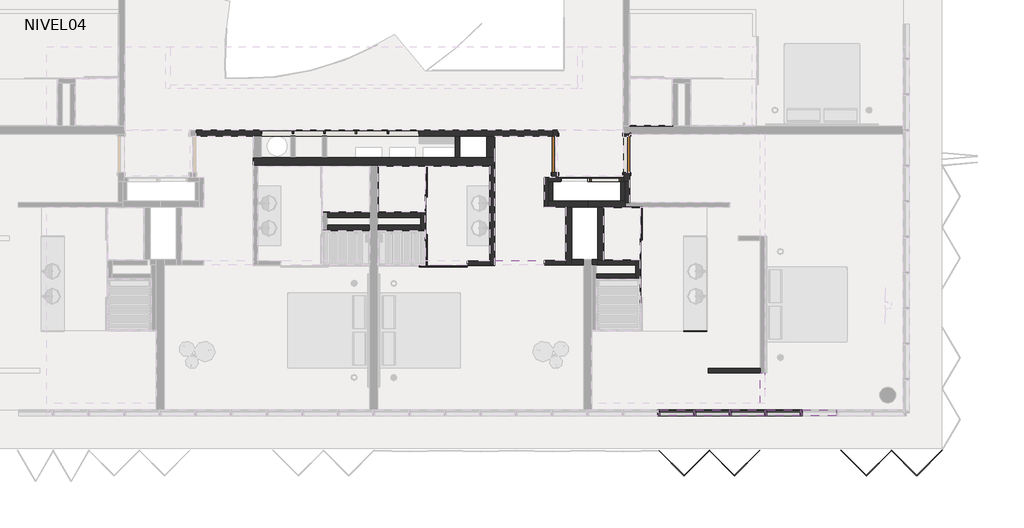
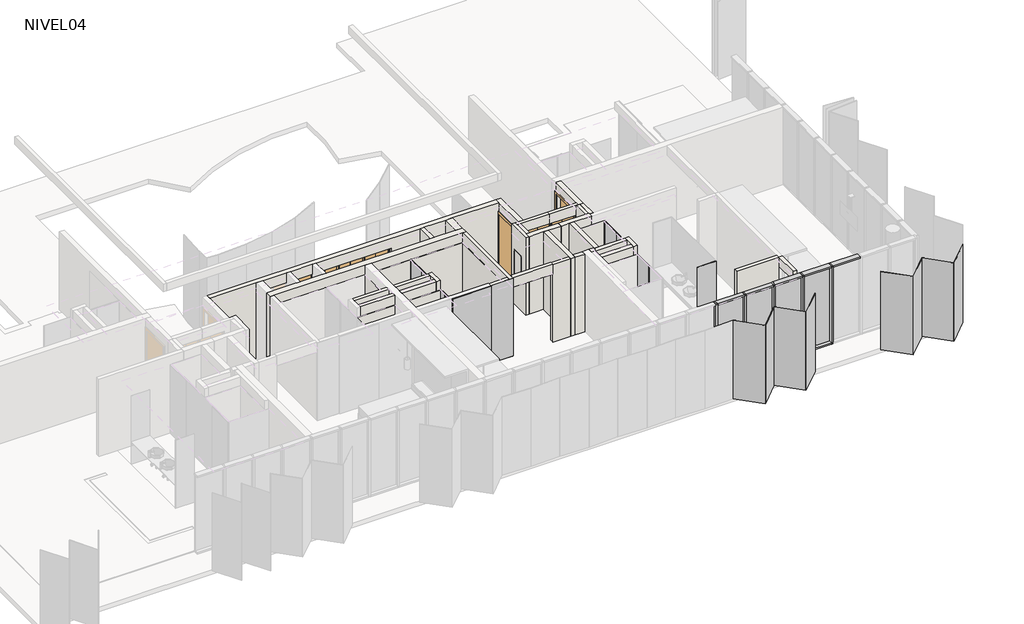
# One storey, part 3 of 8: 45 walls, 14 members, 13 plates, 8 doors.
"""IFC4 building model written with IfcOpenShell, lengths in millimetres."""

from ifc_helpers import new_model, si_unit, frame, origin, place, context, project, spatial, polyline, outline, extrude, faceted_brep, transform, mapped, element, save
from components import m_single_flush_910x_224_a4f79d59, m_single_flush_910x_224_d199ccfa, puerta_closet_shaft_75_x_232cm_9b8c6cb1, puerta_closet_shaft_75_x_232cm_f7ce9964, puerta_closet_shaft_80_x_232cm_003f94e8, rectangular_mullion_50_x_150mm_324a6438, rectangular_mullion_50_x_150mm_33c2bde1, folding_hd_folding_hd_45_0b72d655, panel_corredera_cr_panel_corredera_e3ae9a5b, panel_corredera_cr_panel_corredera_0bc1c699, panel_corredera_cr_panel_corredera_7198288a, panel_corredera_cr_panel_corredera_8db39db7, system_panel_cr_shower_d400fda2, system_panel_cr_shower_4114597a, system_panel_cr_shower_ad642826, system_panel_cr_shower_33531463, system_panel_glazed_6ccc6dc1

model = new_model("IFC4")

# Units and contexts
model_context = context("Model", 3, world=origin())
ifc_project = project(units=[si_unit("LENGTHUNIT", "METRE", prefix="MILLI")], contexts=[model_context])

# Site, building, storey
site = spatial("IfcSite", under=ifc_project)
building = spatial("IfcBuilding", under=site)
storey = spatial("IfcBuildingStorey", under=building, Name="NIVEL04", Elevation=7940.0)

# Doors
placement = place(None, origin())
m_single_flush_910x_224_shape = m_single_flush_910x_224_a4f79d59(model_context)
element("IfcDoor", 1, ObjectType="M_Single-Flush : 910x 224", at=placement, inside=storey, context=model_context, shape_type="MappedRepresentation", body=[
    mapped(m_single_flush_910x_224_shape, transform((-2608.5934748, -883.5860759, 7940.0), x_axis=(0.0, 1.0, 0.0), y_axis=(-1.0, 0.0, 0.0), z_axis=(0.0, 0.0, 1.0))),
])
m_single_flush_910x_224_2_shape = m_single_flush_910x_224_d199ccfa(model_context)
element("IfcDoor", 2, ObjectType="M_Single-Flush : 910x 224", at=placement, inside=storey, context=model_context, shape_type="MappedRepresentation", body=[
    mapped(m_single_flush_910x_224_2_shape, transform((-798.5934748, -883.5860759, 7940.0), x_axis=(0.0, 1.0, 0.0), y_axis=(-1.0, 0.0, 0.0), z_axis=(0.0, 0.0, 1.0))),
])
puerta_closet_shaft_75_x_232cm_shape = puerta_closet_shaft_75_x_232cm_9b8c6cb1(model_context)
element("IfcDoor", 3, ObjectType="PUERTA CLOSET SHAFT : 75 x 232cm", at=placement, inside=storey, context=model_context, shape_type="MappedRepresentation", body=[
    mapped(puerta_closet_shaft_75_x_232cm_shape, transform((-947.061904, -1521.0860759, 7940.0), x_axis=(1.0, 0.0, 0.0), y_axis=(0.0, 1.0, 0.0), z_axis=(0.0, 0.0, 1.0))),
])
puerta_closet_shaft_75_x_232cm_2_shape = puerta_closet_shaft_75_x_232cm_f7ce9964(model_context)
element("IfcDoor", 4, ObjectType="PUERTA CLOSET SHAFT : 75 x 232cm", at=placement, inside=storey, context=model_context, shape_type="MappedRepresentation", body=[
    mapped(puerta_closet_shaft_75_x_232cm_2_shape, transform((-2480.1250457, -1521.0860759, 7940.0), x_axis=(-1.0, 0.0, 0.0), y_axis=(0.0, -1.0, 0.0), z_axis=(0.0, 0.0, 1.0))),
])
puerta_closet_shaft_80_x_232cm_shape = puerta_closet_shaft_80_x_232cm_003f94e8(model_context)
element("IfcDoor", 5, ObjectType="PUERTA CLOSET SHAFT : 80 x 232cm", at=placement, inside=storey, context=model_context, shape_type="MappedRepresentation", body=[
    mapped(puerta_closet_shaft_80_x_232cm_shape, transform((-6892.061904, -341.0860759, 7940.0), x_axis=(1.0, 0.0, 0.0), y_axis=(0.0, 1.0, 0.0), z_axis=(0.0, 0.0, 1.0))),
])
element("IfcDoor", 6, ObjectType="PUERTA CLOSET SHAFT : 80 x 232cm", at=placement, inside=storey, context=model_context, shape_type="MappedRepresentation", body=[
    mapped(puerta_closet_shaft_80_x_232cm_shape, transform((-7692.061904, -341.0860759, 7940.0), x_axis=(1.0, 0.0, 0.0), y_axis=(0.0, 1.0, 0.0), z_axis=(0.0, 0.0, 1.0))),
])
element("IfcDoor", 7, ObjectType="PUERTA CLOSET SHAFT : 80 x 232cm", at=placement, inside=storey, context=model_context, shape_type="MappedRepresentation", body=[
    mapped(puerta_closet_shaft_80_x_232cm_shape, transform((-6092.061904, -341.0860759, 7940.0), x_axis=(1.0, 0.0, 0.0), y_axis=(0.0, 1.0, 0.0), z_axis=(0.0, 0.0, 1.0))),
])
element("IfcDoor", 8, ObjectType="PUERTA CLOSET SHAFT : 80 x 232cm", at=placement, inside=storey, context=model_context, shape_type="MappedRepresentation", body=[
    mapped(puerta_closet_shaft_80_x_232cm_shape, transform((-5292.061904, -341.0860759, 7940.0), x_axis=(1.0, 0.0, 0.0), y_axis=(0.0, 1.0, 0.0), z_axis=(0.0, 0.0, 1.0))),
])

# Members
rectangular_mullion_50_x_150mm_shape = rectangular_mullion_50_x_150mm_324a6438(model_context)
element("IfcMember", 9, ObjectType="Rectangular Mullion : 50 x 150mm", at=placement, inside=storey, context=model_context, shape_type="MappedRepresentation", body=[
    mapped(rectangular_mullion_50_x_150mm_shape, transform((1841.4065252, -7416.0860759, 10490.0), x_axis=(0.0, 0.0, 1.0), y_axis=(0.0, 1.0, 0.0), z_axis=(-1.0, 0.0, 0.0))),
])
element("IfcMember", 10, ObjectType="Rectangular Mullion : 50 x 150mm", at=placement, inside=storey, context=model_context, shape_type="MappedRepresentation", body=[
    mapped(rectangular_mullion_50_x_150mm_shape, transform((941.4065252, -7416.0860759, 10490.0), x_axis=(0.0, 0.0, 1.0), y_axis=(0.0, 1.0, 0.0), z_axis=(-1.0, 0.0, 0.0))),
])
element("IfcMember", 11, ObjectType="Rectangular Mullion : 50 x 150mm", at=placement, inside=storey, context=model_context, shape_type="MappedRepresentation", body=[
    mapped(rectangular_mullion_50_x_150mm_shape, transform((41.4065252, -7416.0860759, 10490.0), x_axis=(0.0, 0.0, 1.0), y_axis=(0.0, 1.0, 0.0), z_axis=(-1.0, 0.0, 0.0))),
])
element("IfcMember", 12, ObjectType="Rectangular Mullion : 50 x 150mm", at=placement, inside=storey, context=model_context, shape_type="MappedRepresentation", body=[
    mapped(rectangular_mullion_50_x_150mm_shape, transform((3641.4065252, -7416.0860759, 10490.0), x_axis=(0.0, 0.0, 1.0), y_axis=(0.0, 1.0, 0.0), z_axis=(-1.0, 0.0, 0.0))),
])
element("IfcMember", 13, ObjectType="Rectangular Mullion : 50 x 150mm", at=placement, inside=storey, context=model_context, shape_type="MappedRepresentation", body=[
    mapped(rectangular_mullion_50_x_150mm_shape, transform((2741.4065252, -7416.0860759, 10490.0), x_axis=(0.0, 0.0, 1.0), y_axis=(0.0, 1.0, 0.0), z_axis=(-1.0, 0.0, 0.0))),
])
element("IfcMember", 14, ObjectType="Rectangular Mullion : 50 x 150mm", at=placement, inside=storey, context=model_context, shape_type="MappedRepresentation", body=[
    mapped(rectangular_mullion_50_x_150mm_shape, transform((1791.4065252, -7416.0860759, 7920.0), x_axis=(0.0, 0.0, -1.0), y_axis=(0.0, 1.0, 0.0), z_axis=(1.0, 0.0, 0.0))),
])
element("IfcMember", 15, ObjectType="Rectangular Mullion : 50 x 150mm", at=placement, inside=storey, context=model_context, shape_type="MappedRepresentation", body=[
    mapped(rectangular_mullion_50_x_150mm_shape, transform((891.4065252, -7416.0860759, 7920.0), x_axis=(0.0, 0.0, -1.0), y_axis=(0.0, 1.0, 0.0), z_axis=(1.0, 0.0, 0.0))),
])
element("IfcMember", 16, ObjectType="Rectangular Mullion : 50 x 150mm", at=placement, inside=storey, context=model_context, shape_type="MappedRepresentation", body=[
    mapped(rectangular_mullion_50_x_150mm_shape, transform((3591.4065252, -7416.0860759, 7920.0), x_axis=(0.0, 0.0, -1.0), y_axis=(0.0, 1.0, 0.0), z_axis=(1.0, 0.0, 0.0))),
])
element("IfcMember", 17, ObjectType="Rectangular Mullion : 50 x 150mm", at=placement, inside=storey, context=model_context, shape_type="MappedRepresentation", body=[
    mapped(rectangular_mullion_50_x_150mm_shape, transform((2691.4065252, -7416.0860759, 7920.0), x_axis=(0.0, 0.0, -1.0), y_axis=(0.0, 1.0, 0.0), z_axis=(1.0, 0.0, 0.0))),
])
rectangular_mullion_50_x_150mm_2_shape = rectangular_mullion_50_x_150mm_33c2bde1(model_context)
element("IfcMember", 18, ObjectType="Rectangular Mullion : 50 x 150mm", at=placement, inside=storey, context=model_context, shape_type="MappedRepresentation", body=[
    mapped(rectangular_mullion_50_x_150mm_2_shape, transform((1816.4065252, -7416.0860759, 7920.0), x_axis=(-1.0, 0.0, 0.0), y_axis=(0.0, 1.0, 0.0), z_axis=(0.0, 0.0, -1.0))),
])
element("IfcMember", 19, ObjectType="Rectangular Mullion : 50 x 150mm", at=placement, inside=storey, context=model_context, shape_type="MappedRepresentation", body=[
    mapped(rectangular_mullion_50_x_150mm_2_shape, transform((916.4065252, -7416.0860759, 7920.0), x_axis=(-1.0, 0.0, 0.0), y_axis=(0.0, 1.0, 0.0), z_axis=(0.0, 0.0, -1.0))),
])
element("IfcMember", 20, ObjectType="Rectangular Mullion : 50 x 150mm", at=placement, inside=storey, context=model_context, shape_type="MappedRepresentation", body=[
    mapped(rectangular_mullion_50_x_150mm_2_shape, transform((16.4065252, -7416.0860759, 7920.0), x_axis=(-1.0, 0.0, 0.0), y_axis=(0.0, 1.0, 0.0), z_axis=(0.0, 0.0, -1.0))),
])
element("IfcMember", 21, ObjectType="Rectangular Mullion : 50 x 150mm", at=placement, inside=storey, context=model_context, shape_type="MappedRepresentation", body=[
    mapped(rectangular_mullion_50_x_150mm_2_shape, transform((2716.4065252, -7416.0860759, 7920.0), x_axis=(-1.0, 0.0, 0.0), y_axis=(0.0, 1.0, 0.0), z_axis=(0.0, 0.0, -1.0))),
])
element("IfcMember", 22, ObjectType="Rectangular Mullion : 50 x 150mm", at=placement, inside=storey, context=model_context, shape_type="MappedRepresentation", body=[
    mapped(rectangular_mullion_50_x_150mm_2_shape, transform((3616.4065252, -7416.0860759, 7920.0), x_axis=(-1.0, 0.0, 0.0), y_axis=(0.0, 1.0, 0.0), z_axis=(0.0, 0.0, -1.0))),
])

# Plates
folding_hd_folding_hd_45_shape = folding_hd_folding_hd_45_0b72d655(model_context)
element("IfcPlate", 23, ObjectType="FOLDING HD : FOLDING HD 45", at=placement, inside=storey, context=model_context, shape_type="MappedRepresentation", body=[
    mapped(folding_hd_folding_hd_45_shape, transform((3591.4065252, -8366.0860759, 7920.0), x_axis=(-1.0, 0.0, 0.0), y_axis=(0.0, -1.0, 0.0), z_axis=(0.0, 0.0, 1.0))),
])
panel_corredera_cr_panel_corredera_shape = panel_corredera_cr_panel_corredera_e3ae9a5b(model_context)
element("IfcPlate", 24, ObjectType="PANEL CORREDERA : CR_PANEL CORREDERA", at=placement, inside=storey, context=model_context, shape_type="MappedRepresentation", body=[
    mapped(panel_corredera_cr_panel_corredera_shape, transform((-453.5434748, -2560.8259695, 7940.0), x_axis=(0.0, -1.0, 0.0), y_axis=(1.0, 0.0, 0.0), z_axis=(0.0, 0.0, 1.0))),
])
panel_corredera_cr_panel_corredera_2_shape = panel_corredera_cr_panel_corredera_0bc1c699(model_context)
element("IfcPlate", 25, ObjectType="PANEL CORREDERA : CR_PANEL CORREDERA", at=placement, inside=storey, context=model_context, shape_type="MappedRepresentation", body=[
    mapped(panel_corredera_cr_panel_corredera_2_shape, transform((-5883.5921504, -3371.0862189, 7940.0), x_axis=(0.0, 1.0, 0.0), y_axis=(-1.0, 0.0, 0.0), z_axis=(0.0, 0.0, 1.0))),
])
panel_corredera_cr_panel_corredera_3_shape = panel_corredera_cr_panel_corredera_7198288a(model_context)
element("IfcPlate", 26, ObjectType="PANEL CORREDERA : CR_PANEL CORREDERA", at=placement, inside=storey, context=model_context, shape_type="MappedRepresentation", body=[
    mapped(panel_corredera_cr_panel_corredera_3_shape, transform((-5883.5921504, -1491.0860759, 7940.0), x_axis=(0.0, -1.0, 0.0), y_axis=(1.0, 0.0, 0.0), z_axis=(0.0, 0.0, 1.0))),
])
panel_corredera_cr_panel_corredera_4_shape = panel_corredera_cr_panel_corredera_8db39db7(model_context)
element("IfcPlate", 27, ObjectType="PANEL CORREDERA : CR_PANEL CORREDERA", at=placement, inside=storey, context=model_context, shape_type="MappedRepresentation", body=[
    mapped(panel_corredera_cr_panel_corredera_4_shape, transform((-5353.5934748, -3686.0862189, 7940.0), x_axis=(-1.0, 0.0, 0.0), y_axis=(0.0, -1.0, 0.0), z_axis=(0.0, 0.0, 1.0))),
])
system_panel_cr_shower_shape = system_panel_cr_shower_d400fda2(model_context)
element("IfcPlate", 28, ObjectType="System Panel : CR-SHOWER", at=placement, inside=storey, context=model_context, shape_type="MappedRepresentation", body=[
    mapped(system_panel_cr_shower_shape, transform((-4478.5934748, -3686.0862189, 7940.0), x_axis=(1.0, 0.0, 0.0), y_axis=(0.0, 1.0, 0.0), z_axis=(0.0, 0.0, 1.0))),
])
system_panel_cr_shower_2_shape = system_panel_cr_shower_4114597a(model_context)
element("IfcPlate", 29, ObjectType="System Panel : CR-SHOWER", at=placement, inside=storey, context=model_context, shape_type="MappedRepresentation", body=[
    mapped(system_panel_cr_shower_2_shape, transform((936.4065252, -5348.5862189, 7940.0), x_axis=(1.0, 0.0, 0.0), y_axis=(0.0, 1.0, 0.0), z_axis=(0.0, 0.0, 1.0))),
])
system_panel_cr_shower_3_shape = system_panel_cr_shower_ad642826(model_context)
element("IfcPlate", 30, ObjectType="System Panel : CR-SHOWER", at=placement, inside=storey, context=model_context, shape_type="MappedRepresentation", body=[
    mapped(system_panel_cr_shower_3_shape, transform((-453.5434748, -3776.2845441, 7940.0), x_axis=(0.0, 1.0, 0.0), y_axis=(-1.0, 0.0, 0.0), z_axis=(0.0, 0.0, 1.0))),
])
system_panel_cr_shower_4_shape = system_panel_cr_shower_33531463(model_context)
element("IfcPlate", 31, ObjectType="System Panel : CR-SHOWER", at=placement, inside=storey, context=model_context, shape_type="MappedRepresentation", body=[
    mapped(system_panel_cr_shower_4_shape, transform((-5883.5921504, -2436.0861474, 7940.0), x_axis=(0.0, 1.0, 0.0), y_axis=(-1.0, 0.0, 0.0), z_axis=(0.0, 0.0, 1.0))),
])
system_panel_glazed_shape = system_panel_glazed_6ccc6dc1(model_context)
element("IfcPlate", 32, ObjectType="System Panel : Glazed", at=placement, inside=storey, context=model_context, shape_type="MappedRepresentation", body=[
    mapped(system_panel_glazed_shape, transform((1366.4065252, -7416.0860759, 7970.0), x_axis=(-1.0, 0.0, 0.0), y_axis=(0.0, -1.0, 0.0), z_axis=(0.0, 0.0, 1.0))),
])
element("IfcPlate", 33, ObjectType="System Panel : Glazed", at=placement, inside=storey, context=model_context, shape_type="MappedRepresentation", body=[
    mapped(system_panel_glazed_shape, transform((466.4065252, -7416.0860759, 7970.0), x_axis=(-1.0, 0.0, 0.0), y_axis=(0.0, -1.0, 0.0), z_axis=(0.0, 0.0, 1.0))),
])
element("IfcPlate", 34, ObjectType="System Panel : Glazed", at=placement, inside=storey, context=model_context, shape_type="MappedRepresentation", body=[
    mapped(system_panel_glazed_shape, transform((2266.4065252, -7416.0860759, 7970.0), x_axis=(-1.0, 0.0, 0.0), y_axis=(0.0, -1.0, 0.0), z_axis=(0.0, 0.0, 1.0))),
])
element("IfcPlate", 35, ObjectType="System Panel : Glazed", at=placement, inside=storey, context=model_context, shape_type="MappedRepresentation", body=[
    mapped(system_panel_glazed_shape, transform((3166.4065252, -7416.0860759, 7970.0), x_axis=(-1.0, 0.0, 0.0), y_axis=(0.0, -1.0, 0.0), z_axis=(0.0, 0.0, 1.0))),
])

# Walls
element("IfcWall", 36, ObjectType="SCV.TI.A.110.090.143.47.1", at=placement, inside=storey, context=model_context, shape_type="SweptSolid", body=[
    extrude(outline(polyline([(-2333.5934748, -3681.0862189), (-2883.5934748, -3681.0862189), (-2883.5934748, -3571.0862189), (-2333.5934748, -3571.0862189), (-2333.5934748, -3681.0862189)])), frame((0.0, 0.0, 7940.0), z_axis=(0.0, 0.0, 1.0), x_axis=(1.0, 0.0, 0.0)), (0.0, 0.0, 1.0), 2550.0),
])
element("IfcWall", 37, ObjectType="SCV.TI.A.110.090.143.47.1", at=placement, inside=storey, context=model_context, shape_type="Brep", body=[
    faceted_brep([(-1778.029983, -1576.0860759, 10490.0), (-2773.5934748, -1576.0860759, 10490.0), (-2773.5934748, -1576.0860759, 7940.0), (-2463.5934748, -1576.0860759, 7940.0), (-2463.5934748, -1576.0860759, 10180.0), (-1778.029983, -1576.0860759, 10180.0), (-2773.5934748, -1466.0860759, 10490.0), (-2683.5934748, -1466.0860759, 10490.0), (-2533.5934748, -1466.0860759, 10490.0), (-1778.029983, -1466.0860759, 10490.0), (-1778.029983, -1466.0860759, 10180.0), (-2463.5934748, -1466.0860759, 10180.0), (-2463.5934748, -1466.0860759, 7940.0), (-2533.5934748, -1466.0860759, 7940.0), (-2683.5934748, -1466.0860759, 7940.0), (-2773.5934748, -1466.0860759, 7940.0)], [[[0, 1, 2, 3, 4, 5]], [[6, 7, 8, 9, 10, 11, 12, 13, 14, 15]], [[2, 15, 14, 13, 12, 3]], [[9, 0, 5, 10]], [[1, 0, 9, 8, 7, 6]], [[4, 11, 10, 5]], [[11, 4, 3, 12]], [[2, 1, 6, 15]]]),
])
element("IfcWall", 38, ObjectType="SCV.TI.A.150.120.212.47.1", at=placement, inside=storey, context=model_context, shape_type="Brep", body=[
    faceted_brep([(-2683.5934748, -1466.0860759, 10490.0), (-2683.5934748, -416.0860759, 10490.0), (-2683.5934748, -266.0860759, 10490.0), (-2683.5934748, -266.0860759, 7940.0), (-2683.5934748, -426.0860759, 7940.0), (-2683.5934748, -426.0860759, 10140.0), (-2683.5934748, -1341.0860759, 10140.0), (-2683.5934748, -1341.0860759, 7940.0), (-2683.5934748, -1466.0860759, 7940.0), (-2533.5934748, -266.0860759, 10490.0), (-2533.5934748, -1466.0860759, 10490.0), (-2533.5934748, -1466.0860759, 7940.0), (-2533.5934748, -1341.0860759, 7940.0), (-2533.5934748, -1341.0860759, 10140.0), (-2533.5934748, -426.0860759, 10140.0), (-2533.5934748, -426.0860759, 7940.0), (-2533.5934748, -266.0860759, 7940.0)], [[[0, 1, 2, 3, 4, 5, 6, 7, 8]], [[9, 10, 11, 12, 13, 14, 15, 16]], [[3, 16, 15, 4]], [[11, 8, 7, 12]], [[2, 1, 0, 10, 9]], [[5, 14, 13, 6]], [[6, 13, 12, 7]], [[14, 5, 4, 15]], [[3, 2, 9, 16]], [[0, 8, 11, 10]]]),
])
element("IfcWall", 39, ObjectType="SCV.TI.A.110.090.143.47.1", at=placement, inside=storey, context=model_context, shape_type="Brep", body=[
    faceted_brep([(-4243.5934748, -1166.0860759, 7920.0), (-4243.5934748, -3686.0862189, 7920.0), (-4243.5934748, -3686.0862189, 7940.0), (-4243.5934748, -3686.0862189, 10490.0), (-4243.5934748, -3576.0862189, 10490.0), (-4243.5934748, -1166.0860759, 10490.0), (-4133.5934748, -1166.0860759, 7920.0), (-4133.5934748, -1166.0860759, 10490.0), (-4133.5934748, -3686.0862189, 10490.0), (-4133.5934748, -3686.0862189, 10190.0), (-4133.5934748, -3686.0862189, 7920.0)], [[[0, 1, 2, 3, 4, 5]], [[6, 7, 8, 9, 10]], [[1, 0, 6, 10]], [[5, 4, 3, 8, 7]], [[1, 10, 9, 8, 3, 2]], [[0, 5, 7, 6]]]),
])
element("IfcWall", 40, ObjectType="SCV.TI.A.150.120.212.47.1", at=placement, inside=storey, context=model_context, shape_type="Brep", body=[
    faceted_brep([(-11683.5934748, -416.0860759, 7920.0), (-10233.5934748, -416.0860759, 7920.0), (-10033.5934748, -416.0860759, 7920.0), (-9283.5934748, -416.0860759, 7920.0), (-9173.5934748, -416.0860759, 7920.0), (-8483.5934748, -416.0860759, 7920.0), (-8373.5934748, -416.0860759, 7920.0), (-5133.5934748, -416.0860759, 7920.0), (-5013.5934748, -416.0860759, 7920.0), (-4333.5934748, -416.0860759, 7920.0), (-4133.5934748, -416.0860759, 7920.0), (-2683.5934748, -416.0860759, 7920.0), (-2683.5934748, -416.0860759, 10490.0), (-4133.5934748, -416.0860759, 10490.0), (-4333.5934748, -416.0860759, 10490.0), (-5013.5934748, -416.0860759, 10490.0), (-5133.5934748, -416.0860759, 10490.0), (-8373.5934748, -416.0860759, 10490.0), (-8483.5934748, -416.0860759, 10490.0), (-9173.5934748, -416.0860759, 10490.0), (-9283.5934748, -416.0860759, 10490.0), (-10033.5934748, -416.0860759, 10490.0), (-10233.5934748, -416.0860759, 10490.0), (-11683.5934748, -416.0860759, 10490.0), (-6033.5934748, -416.0860759, 7940.0), (-10033.5934748, -416.0860759, 7940.0), (-10033.5934748, -416.0860759, 10160.0), (-6033.5934748, -416.0860759, 10160.0), (-2683.5934748, -266.0860759, 7920.0), (-11683.5934748, -266.0860759, 7920.0), (-11683.5934748, -266.0860759, 7940.0), (-11683.5934748, -266.0860759, 10490.0), (-2683.5934748, -266.0860759, 10490.0), (-2683.5934748, -266.0860759, 7940.0), (-6033.5934748, -266.0860759, 10160.0), (-10033.5934748, -266.0860759, 10160.0), (-10033.5934748, -266.0860759, 7940.0), (-6033.5934748, -266.0860759, 7940.0)], [[[0, 1, 2, 3, 4, 5, 6, 7, 8, 9, 10, 11, 12, 13, 14, 15, 16, 17, 18, 19, 20, 21, 22, 23], [24, 25, 26, 27]], [[28, 29, 30, 31, 32, 33], [34, 35, 36, 37]], [[11, 10, 9, 8, 7, 6, 5, 4, 3, 2, 1, 0, 29, 28]], [[23, 22, 21, 20, 19, 18, 17, 16, 15, 14, 13, 12, 32, 31]], [[26, 35, 34, 27]], [[36, 25, 24, 37]], [[25, 36, 35, 26]], [[37, 24, 27, 34]], [[12, 11, 28, 33, 32]], [[0, 23, 31, 30, 29]]]),
])
element("IfcWall", 41, ObjectType="SCV.TI.A.150.120.212.47.1", at=placement, inside=storey, context=model_context, shape_type="Brep", body=[
    faceted_brep([(-2773.5934748, -2216.0860759, 7940.0), (-2333.5934748, -2216.0860759, 7940.0), (-2183.5934748, -2216.0860759, 7940.0), (-1783.5934748, -2216.0860759, 7940.0), (-1783.5934748, -2216.0860759, 10490.0), (-2183.5934748, -2216.0860759, 10490.0), (-2333.5934748, -2216.0860759, 10490.0), (-2773.5934748, -2216.0860759, 10490.0), (-2773.5934748, -2066.0860759, 7940.0), (-2773.5934748, -2066.0860759, 10490.0), (-1783.5934748, -2066.0860759, 10490.0), (-1783.5934748, -2066.0860759, 7940.0)], [[[0, 1, 2, 3, 4, 5, 6, 7]], [[8, 9, 10, 11]], [[3, 2, 1, 0, 8, 11]], [[4, 3, 11, 10]], [[7, 6, 5, 4, 10, 9]], [[0, 7, 9, 8]]]),
])
element("IfcWall", 42, ObjectType="SCV.TI.A.110.090.143.47.1", at=placement, inside=storey, context=model_context, shape_type="Brep", body=[
    faceted_brep([(-2883.5934748, -1466.0860759, 7920.0), (-2883.5934748, -2216.0860759, 7920.0), (-2883.5934748, -2216.0860759, 10490.0), (-2883.5934748, -1466.0860759, 10490.0), (-2773.5934748, -1466.0860759, 7920.0), (-2773.5934748, -1466.0860759, 7940.0), (-2773.5934748, -1466.0860759, 10490.0), (-2773.5934748, -1576.0860759, 10490.0), (-2773.5934748, -2066.0860759, 10490.0), (-2773.5934748, -2216.0860759, 10490.0), (-2773.5934748, -2216.0860759, 7940.0), (-2773.5934748, -2216.0860759, 7920.0)], [[[0, 1, 2, 3]], [[4, 5, 6, 7, 8, 9, 10, 11]], [[1, 0, 4, 11]], [[3, 2, 9, 8, 7, 6]], [[2, 1, 11, 10, 9]], [[0, 3, 6, 5, 4]]]),
])
element("IfcWall", 43, ObjectType="SCV.TI.A.120.120.122.46.2", at=placement, inside=storey, context=model_context, shape_type="SweptSolid", body=[
    extrude(outline(polyline([(-6003.6822103, -2796.0860759), (-7083.5934748, -2796.0860759), (-7083.5934748, -2676.0860759), (-6003.6822103, -2676.0860759), (-6003.6822103, -2796.0860759)])), frame((0.0, 0.0, 7940.0), z_axis=(0.0, 0.0, 1.0), x_axis=(1.0, 0.0, 0.0)), (0.0, 0.0, 1.0), 2550.0),
])
element("IfcWall", 44, ObjectType="SCV.TI.A.120.120.122.46.2", at=placement, inside=storey, context=model_context, shape_type="Brep", body=[
    faceted_brep([(-5883.6822103, -2796.0860759, 7940.0), (-5883.6822103, -2356.0860759, 7940.0), (-5883.6822103, -2356.0860759, 10490.0), (-5883.6822103, -2796.0860759, 10490.0), (-6003.6822103, -2796.0860759, 7940.0), (-6003.6822103, -2796.0860759, 10490.0), (-6003.6822103, -2676.0860759, 10490.0), (-6003.6822103, -2476.0860759, 10490.0), (-6003.6822103, -2356.0860759, 10490.0), (-6003.6822103, -2356.0860759, 7940.0), (-6003.6822103, -2476.0860759, 7940.0), (-6003.6822103, -2676.0860759, 7940.0)], [[[0, 1, 2, 3]], [[4, 5, 6, 7, 8, 9, 10, 11]], [[1, 0, 4, 11, 10, 9]], [[3, 2, 8, 7, 6, 5]], [[2, 1, 9, 8]], [[0, 3, 5, 4]]]),
])
element("IfcWall", 45, ObjectType="SCV.TI.A.120.120.122.46.2", at=placement, inside=storey, context=model_context, shape_type="SweptSolid", body=[
    extrude(outline(polyline([(-7083.5934748, -2356.0860759), (-6003.6822103, -2356.0860759), (-6003.6822103, -2476.0860759), (-7083.5934748, -2476.0860759), (-7083.5934748, -2356.0860759)])), frame((0.0, 0.0, 7940.0), z_axis=(0.0, 0.0, 1.0), x_axis=(1.0, 0.0, 0.0)), (0.0, 0.0, 1.0), 2550.0),
])
element("IfcWall", 46, ObjectType="SCV.TI.A.110.090.143.47.1", at=placement, inside=storey, context=model_context, shape_type="Brep", body=[
    faceted_brep([(-4823.5934748, -3686.0862189, 7940.0), (-4243.5934748, -3686.0862189, 7940.0), (-4243.5934748, -3686.0862189, 10490.0), (-4823.5934748, -3686.0862189, 10490.0), (-4823.5934748, -3686.0862189, 10190.0), (-4823.5934748, -3576.0862189, 7940.0), (-4823.5934748, -3576.0862189, 10490.0), (-4243.5934748, -3576.0862189, 10490.0), (-4243.5934748, -3576.0862189, 7940.0)], [[[0, 1, 2, 3, 4]], [[5, 6, 7, 8]], [[1, 0, 5, 8]], [[3, 2, 7, 6]], [[0, 4, 3, 6, 5]], [[1, 8, 7, 2]]]),
])
element("IfcWall", 47, ObjectType="REV-PORCELANATO_60*60", at=placement, inside=storey, context=model_context, shape_type="Brep", body=[
    faceted_brep([(-4823.5934748, -3596.0862189, 7940.0), (-4243.5934748, -3596.0862189, 7940.0), (-4243.5934748, -3596.0862189, 10180.0), (-4823.5934748, -3596.0862189, 10180.0), (-4823.5934748, -3586.0862189, 7940.0), (-4823.5934748, -3586.0862189, 10180.0), (-4253.5934748, -3586.0862189, 10180.0), (-4243.5934748, -3586.0862189, 10180.0), (-4243.5934748, -3586.0862189, 7940.0), (-4253.5934748, -3586.0862189, 7940.0)], [[[0, 1, 2, 3]], [[4, 5, 6, 7, 8, 9]], [[1, 0, 4, 9, 8]], [[3, 2, 7, 6, 5]], [[0, 3, 5, 4]], [[2, 1, 8, 7]]]),
])
element("IfcWall", 48, ObjectType="REV-PORCELANATO_60*60", at=placement, inside=storey, context=model_context, shape_type="Brep", body=[
    faceted_brep([(-4243.5934748, -3586.0862189, 7940.0), (-4243.5934748, -1166.0860759, 7940.0), (-4243.5934748, -1166.0860759, 10180.0), (-4243.5934748, -3586.0862189, 10180.0), (-4253.5934748, -3586.0862189, 7940.0), (-4253.5934748, -3586.0862189, 10180.0), (-4253.5934748, -1176.0860759, 10180.0), (-4253.5934748, -1166.0860759, 10180.0), (-4253.5934748, -1166.0860759, 7940.0), (-4253.5934748, -1176.0860759, 7940.0)], [[[0, 1, 2, 3]], [[4, 5, 6, 7, 8, 9]], [[1, 0, 4, 9, 8]], [[3, 2, 7, 6, 5]], [[2, 1, 8, 7]], [[0, 3, 5, 4]]]),
])
element("IfcWall", 49, ObjectType="REV-PORCELANATO_60*60", at=placement, inside=storey, context=model_context, shape_type="Brep", body=[
    faceted_brep([(-4253.5934748, -1166.0860759, 7940.0), (-7083.5934748, -1166.0860759, 7940.0), (-7083.5934748, -1166.0860759, 10180.0), (-4253.5934748, -1166.0860759, 10180.0), (-4253.5934748, -1176.0860759, 7940.0), (-4253.5934748, -1176.0860759, 10180.0), (-7073.5934748, -1176.0860759, 10180.0), (-7083.5934748, -1176.0860759, 10180.0), (-7083.5934748, -1176.0860759, 7940.0), (-7073.5934748, -1176.0860759, 7940.0)], [[[0, 1, 2, 3]], [[4, 5, 6, 7, 8, 9]], [[1, 0, 4, 9, 8]], [[3, 2, 7, 6, 5]], [[2, 1, 8, 7]], [[0, 3, 5, 4]]]),
])
element("IfcWall", 50, ObjectType="REV-PORCELANATO_60*60", at=placement, inside=storey, context=model_context, shape_type="Brep", body=[
    faceted_brep([(-7083.5934748, -1176.0860759, 7940.0), (-7083.5934748, -2356.0860759, 7940.0), (-7083.5934748, -2356.0860759, 10180.0), (-7083.5934748, -1176.0860759, 10180.0), (-7073.5934748, -1176.0860759, 7940.0), (-7073.5934748, -1176.0860759, 10180.0), (-7073.5934748, -2346.0860759, 10180.0), (-7073.5934748, -2356.0860759, 10180.0), (-7073.5934748, -2356.0860759, 7940.0), (-7073.5934748, -2346.0860759, 7940.0)], [[[0, 1, 2, 3]], [[4, 5, 6, 7, 8, 9]], [[1, 0, 4, 9, 8]], [[3, 2, 7, 6, 5]], [[2, 1, 8, 7]], [[0, 3, 5, 4]]]),
])
element("IfcWall", 51, ObjectType="REV-PORCELANATO_60*60", at=placement, inside=storey, context=model_context, shape_type="SweptSolid", body=[
    extrude(outline(polyline([(-5883.5921504, -2356.0860759), (-7073.5934748, -2356.0860759), (-7073.5934748, -2346.0860759), (-5883.5921504, -2346.0860759), (-5883.5921504, -2356.0860759)])), frame((0.0, 0.0, 7940.0), z_axis=(0.0, 0.0, 1.0), x_axis=(1.0, 0.0, 0.0)), (0.0, 0.0, 1.0), 2240.0),
])
element("IfcWall", 52, ObjectType="REV-PORCELANATO_60*60", at=placement, inside=storey, context=model_context, shape_type="Brep", body=[
    faceted_brep([(-5883.5921504, -2796.0860759, 7940.0), (-7083.5934748, -2796.0860759, 7940.0), (-7083.5934748, -2796.0860759, 10180.0), (-5883.5921504, -2796.0860759, 10180.0), (-5883.5921504, -2806.0860759, 7940.0), (-5883.5921504, -2806.0860759, 10180.0), (-7073.5934748, -2806.0860759, 10180.0), (-7083.5934748, -2806.0860759, 10180.0), (-7083.5934748, -2806.0860759, 7940.0), (-7073.5934748, -2806.0860759, 7940.0)], [[[0, 1, 2, 3]], [[4, 5, 6, 7, 8, 9]], [[1, 0, 4, 9, 8]], [[3, 2, 7, 6, 5]], [[0, 3, 5, 4]], [[2, 1, 8, 7]]]),
])
element("IfcWall", 53, ObjectType="SCV.TI.A.120.120.122.46.2", at=placement, inside=storey, context=model_context, shape_type="SweptSolid", body=[
    extrude(outline(polyline([(-8363.5047394, -2676.0860759), (-7283.5934748, -2676.0860759), (-7283.5934748, -2796.0860759), (-8363.5047394, -2796.0860759), (-8363.5047394, -2676.0860759)])), frame((0.0, 0.0, 7940.0), z_axis=(0.0, 0.0, 1.0), x_axis=(1.0, 0.0, 0.0)), (0.0, 0.0, 1.0), 2550.0),
])
element("IfcWall", 54, ObjectType="SCV.TI.A.120.120.122.46.2", at=placement, inside=storey, context=model_context, shape_type="SweptSolid", body=[
    extrude(outline(polyline([(-7283.5934748, -2476.0860759), (-8363.5047394, -2476.0860759), (-8363.5047394, -2356.0860759), (-7283.5934748, -2356.0860759), (-7283.5934748, -2476.0860759)])), frame((0.0, 0.0, 7940.0), z_axis=(0.0, 0.0, 1.0), x_axis=(1.0, 0.0, 0.0)), (0.0, 0.0, 1.0), 2550.0),
])
element("IfcWall", 55, ObjectType="REV-PORCELANATO_60*60", at=placement, inside=storey, context=model_context, shape_type="Brep", body=[
    faceted_brep([(-7293.5934748, -1176.0860759, 7940.0), (-7293.5934748, -2346.0860759, 7940.0), (-7293.5934748, -2356.0860759, 7940.0), (-7293.5934748, -2356.0860759, 10180.0), (-7293.5934748, -2346.0860759, 10180.0), (-7293.5934748, -1176.0860759, 10180.0), (-7283.5934748, -1176.0860759, 7940.0), (-7283.5934748, -1176.0860759, 10180.0), (-7283.5934748, -2356.0860759, 10180.0), (-7283.5934748, -2356.0860759, 7940.0)], [[[0, 1, 2, 3, 4, 5]], [[6, 7, 8, 9]], [[2, 1, 0, 6, 9]], [[5, 4, 3, 8, 7]], [[3, 2, 9, 8]], [[0, 5, 7, 6]]]),
])
element("IfcWall", 56, ObjectType="REV-PORCELANATO_60*60", at=placement, inside=storey, context=model_context, shape_type="SweptSolid", body=[
    extrude(outline(polyline([(-8483.5947993, -2346.0860759), (-7293.5934748, -2346.0860759), (-7293.5934748, -2356.0860759), (-8483.5947993, -2356.0860759), (-8483.5947993, -2346.0860759)])), frame((0.0, 0.0, 7940.0), z_axis=(0.0, 0.0, 1.0), x_axis=(1.0, 0.0, 0.0)), (0.0, 0.0, 1.0), 2240.0),
])
element("IfcWall", 57, ObjectType="REV-PORCELANATO_60*60", at=placement, inside=storey, context=model_context, shape_type="Brep", body=[
    faceted_brep([(-8483.5947993, -2806.0860759, 7940.0), (-7293.5934748, -2806.0860759, 7940.0), (-7283.5934748, -2806.0860759, 7940.0), (-7283.5934748, -2806.0860759, 10180.0), (-7293.5934748, -2806.0860759, 10180.0), (-8483.5947993, -2806.0860759, 10180.0), (-8483.5947993, -2796.0860759, 7940.0), (-8483.5947993, -2796.0860759, 10180.0), (-7283.5934748, -2796.0860759, 10180.0), (-7283.5934748, -2796.0860759, 7940.0)], [[[0, 1, 2, 3, 4, 5]], [[6, 7, 8, 9]], [[2, 1, 0, 6, 9]], [[5, 4, 3, 8, 7]], [[0, 5, 7, 6]], [[3, 2, 9, 8]]]),
])
element("IfcWall", 58, ObjectType="SCV.TI.A.120.120.122.46.2", at=placement, inside=storey, context=model_context, shape_type="SweptSolid", body=[
    extrude(outline(polyline([(-573.5934748, -4026.0862189), (-1563.5934748, -4026.0862189), (-1563.5934748, -3906.0862189), (-573.5934748, -3906.0862189), (-573.5934748, -4026.0862189)])), frame((0.0, 0.0, 7920.0), z_axis=(0.0, 0.0, 1.0), x_axis=(1.0, 0.0, 0.0)), (0.0, 0.0, 1.0), 2570.0),
])
element("IfcWall", 59, ObjectType="SCV.TI.A.120.120.122.46.2", at=placement, inside=storey, context=model_context, shape_type="Brep", body=[
    faceted_brep([(-453.5934748, -4026.0862189, 7920.0), (-453.5934748, -3566.0862189, 7920.0), (-453.5934748, -3566.0862189, 10490.0), (-453.5934748, -4026.0862189, 10490.0), (-573.5934748, -4026.0862189, 7920.0), (-573.5934748, -4026.0862189, 10490.0), (-573.5934748, -3906.0862189, 10490.0), (-573.5934748, -3686.0862189, 10490.0), (-573.5934748, -3566.0862189, 10490.0), (-573.5934748, -3566.0862189, 7920.0), (-573.5934748, -3686.0862189, 7920.0), (-573.5934748, -3906.0862189, 7920.0)], [[[0, 1, 2, 3]], [[4, 5, 6, 7, 8, 9, 10, 11]], [[1, 0, 4, 11, 10, 9]], [[3, 2, 8, 7, 6, 5]], [[2, 1, 9, 8]], [[0, 3, 5, 4]]]),
])
element("IfcWall", 60, ObjectType="SCV.TI.A.120.120.122.46.2", at=placement, inside=storey, context=model_context, shape_type="Brep", body=[
    faceted_brep([(-573.5934748, -3566.0862189, 7920.0), (-1383.5934748, -3566.0862189, 7920.0), (-1533.5934748, -3566.0862189, 7920.0), (-1533.5934748, -3566.0862189, 10490.0), (-1383.5934748, -3566.0862189, 10490.0), (-573.5934748, -3566.0862189, 10490.0), (-573.5934748, -3686.0862189, 7920.0), (-573.5934748, -3686.0862189, 10490.0), (-1533.5934748, -3686.0862189, 10490.0), (-1533.5934748, -3686.0862189, 7920.0)], [[[0, 1, 2, 3, 4, 5]], [[6, 7, 8, 9]], [[2, 1, 0, 6, 9]], [[5, 4, 3, 8, 7]], [[0, 5, 7, 6]], [[3, 2, 9, 8]]]),
])
element("IfcWall", 61, ObjectType="SCV.TI.A.110.090.143.47.1", at=placement, inside=storey, context=model_context, shape_type="Brep", body=[
    faceted_brep([(-873.5934748, -1466.0860759, 7920.0), (-1778.029983, -1466.0860759, 7920.0), (-1778.029983, -1466.0860759, 7940.0), (-963.5934748, -1466.0860759, 7940.0), (-963.5934748, -1466.0860759, 10180.0), (-1778.029983, -1466.0860759, 10180.0), (-1778.029983, -1466.0860759, 10490.0), (-873.5934748, -1466.0860759, 10490.0), (-1778.029983, -1576.0860759, 7920.0), (-943.5934748, -1576.0860759, 7920.0), (-873.5934748, -1576.0860759, 7920.0), (-873.5934748, -1576.0860759, 10490.0), (-943.5934748, -1576.0860759, 10490.0), (-1778.029983, -1576.0860759, 10490.0), (-1778.029983, -1576.0860759, 10180.0), (-963.5934748, -1576.0860759, 10180.0), (-963.5934748, -1576.0860759, 7940.0), (-1778.029983, -1576.0860759, 7940.0)], [[[0, 1, 2, 3, 4, 5, 6, 7]], [[8, 9, 10, 11, 12, 13, 14, 15, 16, 17]], [[1, 0, 10, 9, 8]], [[1, 8, 17, 2]], [[13, 6, 5, 14]], [[7, 6, 13, 12, 11]], [[4, 15, 14, 5]], [[16, 3, 2, 17]], [[3, 16, 15, 4]], [[0, 7, 11, 10]]]),
])
element("IfcWall", 62, ObjectType="SCV.TI.A.150.120.212.47.1", at=placement, inside=storey, context=model_context, shape_type="Brep", body=[
    faceted_brep([(-873.5934748, -366.0860759, 7920.0), (-873.5934748, -1466.0860759, 7920.0), (-873.5934748, -1576.0860759, 7920.0), (-873.5934748, -1576.0860759, 10490.0), (-873.5934748, -1466.0860759, 10490.0), (-873.5934748, -366.0860759, 10490.0), (-873.5934748, -1341.0860759, 7940.0), (-873.5934748, -426.0860759, 7940.0), (-873.5934748, -426.0860759, 10140.0), (-873.5934748, -1341.0860759, 10140.0), (-723.5934748, -1576.0860759, 7920.0), (-723.5934748, -366.0860759, 7920.0), (-723.5934748, -366.0860759, 10490.0), (-723.5934748, -1576.0860759, 10490.0), (-723.5934748, -426.0860759, 7940.0), (-723.5934748, -1341.0860759, 7940.0), (-723.5934748, -1341.0860759, 10140.0), (-723.5934748, -426.0860759, 10140.0), (-833.5934748, -1576.0860759, 7920.0), (-833.5934748, -1576.0860759, 10490.0)], [[[0, 1, 2, 3, 4, 5], [6, 7, 8, 9]], [[10, 11, 12, 13], [14, 15, 16, 17]], [[2, 1, 0, 11, 10, 18]], [[5, 4, 3, 19, 13, 12]], [[6, 15, 14, 7]], [[8, 17, 16, 9]], [[15, 6, 9, 16]], [[17, 8, 7, 14]], [[3, 2, 18, 10, 13, 19]], [[0, 5, 12, 11]]]),
])
element("IfcWall", 63, ObjectType="SCV.TI.A.150.120.212.47.1", at=placement, inside=storey, context=model_context, shape_type="Brep", body=[
    faceted_brep([(-833.5934748, -2066.0860759, 7920.0), (-1783.5934748, -2066.0860759, 7920.0), (-1783.5934748, -2066.0860759, 10490.0), (-833.5934748, -2066.0860759, 10490.0), (-833.5934748, -2216.0860759, 7920.0), (-833.5934748, -2216.0860759, 10490.0), (-1383.5934748, -2216.0860759, 10490.0), (-1533.5934748, -2216.0860759, 10490.0), (-1783.5934748, -2216.0860759, 10490.0), (-1783.5934748, -2216.0860759, 7920.0), (-1533.5934748, -2216.0860759, 7920.0), (-1383.5934748, -2216.0860759, 7920.0), (-833.5934748, -2106.0860759, 7920.0), (-833.5934748, -2106.0860759, 10490.0)], [[[0, 1, 2, 3]], [[4, 5, 6, 7, 8, 9, 10, 11]], [[1, 0, 12, 4, 11, 10, 9]], [[2, 1, 9, 8]], [[3, 2, 8, 7, 6, 5, 13]], [[0, 3, 13, 5, 4, 12]]]),
])
element("IfcWall", 64, ObjectType="SCV.TI.A.110.090.143.47.1", at=placement, inside=storey, context=model_context, shape_type="SweptSolid", body=[
    extrude(outline(polyline([(2576.4065252, -6411.0658633), (1257.7462079, -6411.0658633), (1257.7462079, -6301.0658633), (2576.4065252, -6301.0658633), (2576.4065252, -6411.0658633)])), frame((0.0, 0.0, 7920.0), z_axis=(0.0, 0.0, 1.0), x_axis=(1.0, 0.0, 0.0)), (0.0, 0.0, 1.0), 2570.0),
])
element("IfcWall", 65, ObjectType="REV-PORCELANATO_60*60", at=placement, inside=storey, context=model_context, shape_type="Brep", body=[
    faceted_brep([(-453.5434748, -3556.0862189, 7940.0), (-1373.5934748, -3556.0862189, 7940.0), (-1383.5934748, -3556.0862189, 7940.0), (-1383.5934748, -3556.0862189, 10200.0), (-1373.5934748, -3556.0862189, 10200.0), (-453.5434748, -3556.0862189, 10200.0), (-453.5434748, -3566.0862189, 7940.0), (-453.5434748, -3566.0862189, 10200.0), (-1383.5934748, -3566.0862189, 10200.0), (-1383.5934748, -3566.0862189, 7940.0)], [[[0, 1, 2, 3, 4, 5]], [[6, 7, 8, 9]], [[2, 1, 0, 6, 9]], [[5, 4, 3, 8, 7]], [[0, 5, 7, 6]], [[3, 2, 9, 8]]]),
])
element("IfcWall", 66, ObjectType="REV-PORCELANATO_60*60", at=placement, inside=storey, context=model_context, shape_type="SweptSolid", body=[
    extrude(outline(polyline([(-453.5434748, -2226.0860759), (-1373.5934748, -2226.0860759), (-1373.5934748, -2216.0860759), (-453.5434748, -2216.0860759), (-453.5434748, -2226.0860759)])), frame((0.0, 0.0, 7940.0), z_axis=(0.0, 0.0, 1.0), x_axis=(1.0, 0.0, 0.0)), (0.0, 0.0, 1.0), 2260.0),
])
element("IfcWall", 67, ObjectType="REV-PORCELANATO_60*60", at=placement, inside=storey, context=model_context, shape_type="Brep", body=[
    faceted_brep([(-1373.5934748, -3556.0862189, 7940.0), (-1373.5934748, -2226.0860759, 7940.0), (-1373.5934748, -2216.0860759, 7940.0), (-1373.5934748, -2216.0860759, 10200.0), (-1373.5934748, -2226.0860759, 10200.0), (-1373.5934748, -3556.0862189, 10200.0), (-1383.5934748, -3556.0862189, 7940.0), (-1383.5934748, -3556.0862189, 10200.0), (-1383.5934748, -2216.0860759, 10200.0), (-1383.5934748, -2216.0860759, 7940.0)], [[[0, 1, 2, 3, 4, 5]], [[6, 7, 8, 9]], [[2, 1, 0, 6, 9]], [[5, 4, 3, 8, 7]], [[3, 2, 9, 8]], [[0, 5, 7, 6]]]),
])
element("IfcWall", 68, ObjectType="SCV.TI.A.110.090.143.47.1 2", at=placement, inside=storey, context=model_context, shape_type="SweptSolid", body=[
    extrude(outline(polyline([(2686.4065252, -6411.0658633), (2686.4065252, -7185.2015033), (2576.4065252, -7185.2015033), (2576.4065252, -6411.0658633), (2686.4065252, -6411.0658633)])), frame((0.0, 0.0, 10190.0), z_axis=(0.0, 0.0, 1.0), x_axis=(1.0, 0.0, 0.0)), (0.0, 0.0, 1.0), 300.0),
])
element("IfcWall", 69, ObjectType="SCV.TI.A.110.090.143.47.1", at=placement, inside=storey, context=model_context, shape_type="Brep", body=[
    faceted_brep([(-2773.5934748, -1576.0860759, 7920.0), (-2773.5934748, -2066.0860759, 7920.0), (-2773.5934748, -2066.0860759, 10490.0), (-2773.5934748, -1576.0860759, 10490.0), (-2773.5934748, -1576.0860759, 7940.0), (-2663.5934748, -1576.0860759, 7920.0), (-2663.5934748, -1576.0860759, 10490.0), (-2663.5934748, -2066.0860759, 10490.0), (-2663.5934748, -2066.0860759, 7920.0)], [[[0, 1, 2, 3, 4]], [[5, 6, 7, 8]], [[1, 0, 5, 8]], [[2, 1, 8, 7]], [[3, 2, 7, 6]], [[0, 4, 3, 6, 5]]]),
])
element("IfcWall", 70, ObjectType="SCV.TI.A.110.090.143.47.1", at=placement, inside=storey, context=model_context, shape_type="Brep", body=[
    faceted_brep([(-833.5934748, -1576.0860759, 7920.0), (-833.5934748, -2066.0860759, 7920.0), (-833.5934748, -2106.0860759, 7920.0), (-833.5934748, -2106.0860759, 10490.0), (-833.5934748, -2066.0860759, 10490.0), (-833.5934748, -1576.0860759, 10490.0), (-723.5934748, -1576.0860759, 7920.0), (-723.5934748, -1576.0860759, 10490.0), (-723.5934748, -2106.0860759, 10490.0), (-723.5934748, -2106.0860759, 7920.0)], [[[0, 1, 2, 3, 4, 5]], [[6, 7, 8, 9]], [[2, 1, 0, 6, 9]], [[5, 4, 3, 8, 7]], [[0, 5, 7, 6]], [[3, 2, 9, 8]]]),
])
element("IfcWall", 71, ObjectType="SCV.TI.A.110.090.143.47.1", at=placement, inside=storey, context=model_context, shape_type="Brep", body=[
    faceted_brep([(-943.5934748, -1576.0860759, 7920.0), (-943.5934748, -2113.0860759, 7920.0), (-943.5934748, -2113.0860759, 10490.0), (-943.5934748, -1576.0860759, 10490.0), (-833.5934748, -1576.0860759, 7920.0), (-833.5934748, -1576.0860759, 10490.0), (-833.5934748, -2113.0860759, 10490.0), (-833.5934748, -2113.0860759, 7920.0), (-873.5934748, -1576.0860759, 7920.0), (-873.5934748, -1576.0860759, 10490.0)], [[[0, 1, 2, 3]], [[4, 5, 6, 7]], [[1, 0, 8, 4, 7]], [[2, 1, 7, 6]], [[3, 2, 6, 5, 9]], [[0, 3, 9, 5, 4, 8]]]),
])
element("IfcWall", 72, ObjectType="SCV.TI.A.150.120.212.47.1", at=placement, inside=storey, context=model_context, shape_type="Brep", body=[
    faceted_brep([(-1383.5934748, -3566.0862189, 7920.0), (-1383.5934748, -2216.0860759, 7920.0), (-1383.5934748, -2216.0860759, 10490.0), (-1383.5934748, -3566.0862189, 10490.0), (-1533.5934748, -3566.0862189, 7920.0), (-1533.5934748, -3566.0862189, 10490.0), (-1533.5934748, -3536.0862189, 10490.0), (-1533.5934748, -2216.0860759, 10490.0), (-1533.5934748, -2216.0860759, 7920.0), (-1533.5934748, -3536.0862189, 7920.0)], [[[0, 1, 2, 3]], [[4, 5, 6, 7, 8, 9]], [[1, 0, 4, 9, 8]], [[3, 2, 7, 6, 5]], [[0, 3, 5, 4]], [[2, 1, 8, 7]]]),
])
element("IfcWall", 73, ObjectType="SCV.TI.A.150.120.212.47.1", at=placement, inside=storey, context=model_context, shape_type="Brep", body=[
    faceted_brep([(-1533.5934748, -3536.0862189, 7920.0), (-1683.5934748, -3536.0862189, 7920.0), (-1683.5934748, -3536.0862189, 10490.0), (-1533.5934748, -3536.0862189, 10490.0), (-1533.5934748, -3686.0862189, 7920.0), (-1533.5934748, -3686.0862189, 10490.0), (-1563.5934748, -3686.0862189, 10490.0), (-1683.5934748, -3686.0862189, 10490.0), (-1683.5934748, -3686.0862189, 7920.0), (-1563.5934748, -3686.0862189, 7920.0), (-1533.5934748, -3566.0862189, 7920.0), (-1533.5934748, -3566.0862189, 10490.0)], [[[0, 1, 2, 3]], [[4, 5, 6, 7, 8, 9]], [[1, 0, 10, 4, 9, 8]], [[2, 1, 8, 7]], [[3, 2, 7, 6, 5, 11]], [[0, 3, 11, 5, 4, 10]]]),
])
element("IfcWall", 74, ObjectType="SCV.TI.A.150.120.212.47.1", at=placement, inside=storey, context=model_context, shape_type="Brep", body=[
    faceted_brep([(-2333.5934748, -2216.0860759, 7940.0), (-2333.5934748, -3571.0862189, 7940.0), (-2333.5934748, -3681.0862189, 7940.0), (-2333.5934748, -3681.0862189, 10490.0), (-2333.5934748, -3571.0862189, 10490.0), (-2333.5934748, -2216.0860759, 10490.0), (-2183.5934748, -2216.0860759, 7940.0), (-2183.5934748, -2216.0860759, 10490.0), (-2183.5934748, -3536.0862189, 10490.0), (-2183.5934748, -3681.0862189, 10490.0), (-2183.5934748, -3681.0862189, 7940.0), (-2183.5934748, -3536.0862189, 7940.0)], [[[0, 1, 2, 3, 4, 5]], [[6, 7, 8, 9, 10, 11]], [[2, 1, 0, 6, 11, 10]], [[5, 4, 3, 9, 8, 7]], [[3, 2, 10, 9]], [[0, 5, 7, 6]]]),
])
element("IfcWall", 75, ObjectType="SCV.TI.A.150.120.212.47.1", at=placement, inside=storey, context=model_context, shape_type="Brep", body=[
    faceted_brep([(-2183.5934748, -3686.0862189, 7940.0), (-1883.5934748, -3686.0862189, 7940.0), (-1883.5934748, -3686.0862189, 10490.0), (-2183.5934748, -3686.0862189, 10490.0), (-2183.5934748, -3536.0862189, 7940.0), (-2183.5934748, -3536.0862189, 10490.0), (-1883.5934748, -3536.0862189, 10490.0), (-1883.5934748, -3536.0862189, 7940.0), (-2183.5934748, -3681.0862189, 7940.0), (-2183.5934748, -3681.0862189, 10490.0)], [[[0, 1, 2, 3]], [[4, 5, 6, 7]], [[1, 0, 8, 4, 7]], [[3, 2, 6, 5, 9]], [[0, 3, 9, 5, 4, 8]], [[2, 1, 7, 6]]]),
])
element("IfcWall", 76, ObjectType="REV-PORCELANATO_60*60", at=placement, inside=storey, context=model_context, shape_type="Brep", body=[
    faceted_brep([(-723.5934748, -166.0860759, 7960.0), (366.4065252, -166.0860759, 7960.0), (366.4065252, -166.0860759, 10200.0), (-723.5934748, -166.0860759, 10200.0), (-723.5934748, -156.0860759, 7960.0), (-723.5934748, -156.0860759, 10200.0), (356.4065252, -156.0860759, 10200.0), (366.4065252, -156.0860759, 10200.0), (366.4065252, -156.0860759, 7960.0), (356.4065252, -156.0860759, 7960.0)], [[[0, 1, 2, 3]], [[4, 5, 6, 7, 8, 9]], [[1, 0, 4, 9, 8]], [[3, 2, 7, 6, 5]], [[2, 1, 8, 7]], [[0, 3, 5, 4]]]),
])
element("IfcWall", 77, ObjectType="HA-200mm", at=placement, inside=storey, context=model_context, shape_type="Brep", body=[
    faceted_brep([(-10233.5934748, -1166.0860759, 7920.0), (-10123.5934748, -1166.0860759, 7920.0), (-7283.5934748, -1166.0860759, 7920.0), (-7083.5934748, -1166.0860759, 7920.0), (-4243.5934748, -1166.0860759, 7920.0), (-4133.5934748, -1166.0860759, 7920.0), (-4133.5934748, -1166.0860759, 10490.0), (-4243.5934748, -1166.0860759, 10490.0), (-7083.5934748, -1166.0860759, 10490.0), (-7283.5934748, -1166.0860759, 10490.0), (-10123.5934748, -1166.0860759, 10490.0), (-10233.5934748, -1166.0860759, 10490.0), (-10233.5934748, -966.0860759, 7920.0), (-10233.5934748, -966.0860759, 10490.0), (-10033.5934748, -966.0860759, 10490.0), (-9283.5934748, -966.0860759, 10490.0), (-9173.5934748, -966.0860759, 10490.0), (-8483.5934748, -966.0860759, 10490.0), (-8373.5934748, -966.0860759, 10490.0), (-5133.5934748, -966.0860759, 10490.0), (-5013.5934748, -966.0860759, 10490.0), (-4333.5934748, -966.0860759, 10490.0), (-4133.5934748, -966.0860759, 10490.0), (-4133.5934748, -966.0860759, 7920.0), (-4333.5934748, -966.0860759, 7920.0), (-5013.5934748, -966.0860759, 7920.0), (-5133.5934748, -966.0860759, 7920.0), (-8373.5934748, -966.0860759, 7920.0), (-8483.5934748, -966.0860759, 7920.0), (-9173.5934748, -966.0860759, 7920.0), (-9283.5934748, -966.0860759, 7920.0), (-10033.5934748, -966.0860759, 7920.0)], [[[0, 1, 2, 3, 4, 5, 6, 7, 8, 9, 10, 11]], [[12, 13, 14, 15, 16, 17, 18, 19, 20, 21, 22, 23, 24, 25, 26, 27, 28, 29, 30, 31]], [[5, 4, 3, 2, 1, 0, 12, 31, 30, 29, 28, 27, 26, 25, 24, 23]], [[11, 10, 9, 8, 7, 6, 22, 21, 20, 19, 18, 17, 16, 15, 14, 13]], [[0, 11, 13, 12]], [[6, 5, 23, 22]]]),
])
element("IfcWall", 78, ObjectType="HA-200mm", at=placement, inside=storey, context=model_context, shape_type="SweptSolid", body=[
    extrude(outline(polyline([(-4333.5934748, -966.0860759), (-4333.5934748, -416.0860759), (-4133.5934748, -416.0860759), (-4133.5934748, -966.0860759), (-4333.5934748, -966.0860759)])), frame((0.0, 0.0, 7920.0), z_axis=(0.0, 0.0, 1.0), x_axis=(1.0, 0.0, 0.0)), (0.0, 0.0, 1.0), 2570.0),
])
element("IfcWall", 79, ObjectType="Interior - 120mm Partition (2-hr)", at=placement, inside=storey, context=model_context, shape_type="SweptSolid", body=[
    extrude(outline(polyline([(-5013.5934748, -416.0860759), (-5013.5934748, -966.0860759), (-5133.5934748, -966.0860759), (-5133.5934748, -416.0860759), (-5013.5934748, -416.0860759)])), frame((0.0, 0.0, 7920.0), z_axis=(0.0, 0.0, 1.0), x_axis=(1.0, 0.0, 0.0)), (0.0, 0.0, 1.0), 2570.0),
])
element("IfcWall", 80, ObjectType="Interior - 120mm Partition (2-hr)", at=placement, inside=storey, context=model_context, shape_type="Brep", body=[
    faceted_brep([(-4133.5934748, -3686.0862189, 10190.0), (-2883.5934748, -3686.0862189, 10190.0), (-2883.5934748, -3686.0862189, 10510.0), (-4133.5934748, -3686.0862189, 10510.0), (-4133.5934748, -3686.0862189, 10490.0), (-4133.5934748, -3566.0862189, 10190.0), (-4133.5934748, -3566.0862189, 10510.0), (-2883.5934748, -3566.0862189, 10510.0), (-2883.5934748, -3566.0862189, 10190.0)], [[[0, 1, 2, 3, 4]], [[5, 6, 7, 8]], [[1, 0, 5, 8]], [[2, 1, 8, 7]], [[3, 2, 7, 6]], [[0, 4, 3, 6, 5]]]),
])

save(model, "model.ifc")
